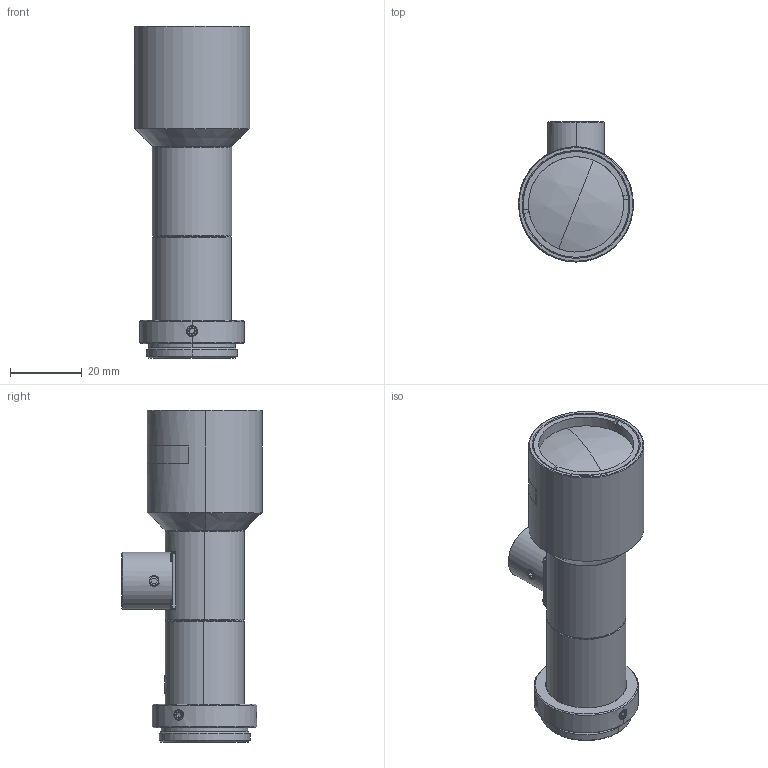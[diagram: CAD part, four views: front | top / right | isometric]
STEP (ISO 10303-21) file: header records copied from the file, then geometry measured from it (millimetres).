
FILE_DESCRIPTION (( 'STEP AP214' ), '1' );
FILE_NAME ('TEC-M0565MPC_210311.STEP', '2021-03-11T06:49:35', ( '' ), ( '' ), 'SwSTEP 2.0', 'SolidWorks 2019', '' );
FILE_SCHEMA (( 'AUTOMOTIVE_DESIGN' ));
Length unit declared in the file: millimetre
Products named in the file (1): TEC-M0565MPC_210311
Bounding box: 32 x 39.01 x 92.3 mm (x, y, z)
Volume: 26828.5 mm3; surface area: 22937.4 mm2
Topology: 17 solids, 17 shells, 540 faces, 1250 edges, 778 vertices
Faces by surface type: plane 214, cylinder 151, cone 139, torus 16, sphere 12, bspline 8
Entity records: 23035 total; most frequent: CARTESIAN_POINT 4309, DIRECTION 2808, ORIENTED_EDGE 2484, EDGE_CURVE 1242, AXIS2_PLACEMENT_3D 1130, VERTEX_POINT 778, EDGE_LOOP 614, CIRCLE 597
